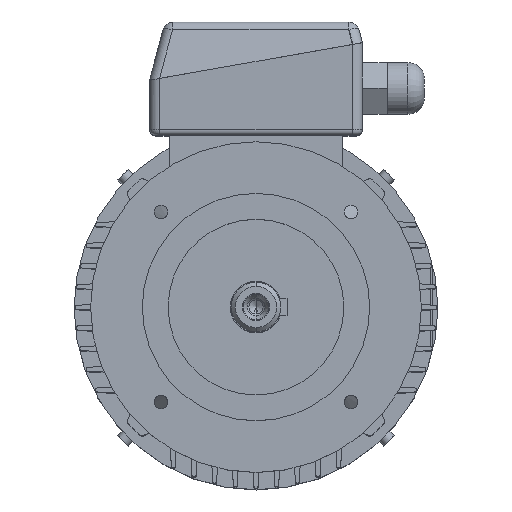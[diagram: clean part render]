
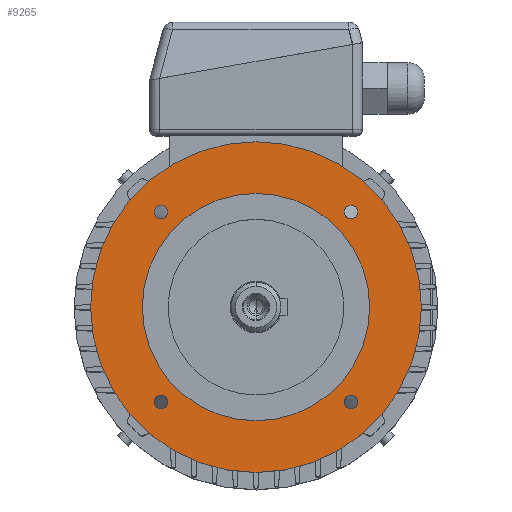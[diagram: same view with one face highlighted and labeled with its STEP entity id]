
A CAD part, top view. The second image highlights one B-rep face of the part: STEP entity #9265.
In plain terms, the highlighted planar face has unit normal (0, 0, 1).
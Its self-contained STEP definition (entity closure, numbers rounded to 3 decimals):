
#608 = VERTEX_POINT ( 'NONE', #9839 ) ;
#863 = VERTEX_POINT ( 'NONE', #9907 ) ;
#1040 = CARTESIAN_POINT ( 'NONE',  ( 49.212, -45.962, 40. ) ) ;
#1097 = EDGE_CURVE ( 'NONE', #863, #608, #10055, .T. ) ;
#1228 = CIRCLE ( 'NONE', #1229, 3.25 ) ;
#1229 = AXIS2_PLACEMENT_3D ( 'NONE', #1230, #1231, #1236 ) ;
#1230 = CARTESIAN_POINT ( 'NONE',  ( 45.962, -45.962, 40. ) ) ;
#1231 = DIRECTION ( 'NONE',  ( 0., 0., 1. ) ) ;
#1236 = DIRECTION ( 'NONE',  ( 1., 0., 0. ) ) ;
#1237 = CIRCLE ( 'NONE', #1238, 3.25 ) ;
#1238 = AXIS2_PLACEMENT_3D ( 'NONE', #1239, #1240, #1241 ) ;
#1239 = CARTESIAN_POINT ( 'NONE',  ( -45.962, 45.962, 40. ) ) ;
#1240 = DIRECTION ( 'NONE',  ( 0., 0., 1. ) ) ;
#1241 = DIRECTION ( 'NONE',  ( 1., 0., 0. ) ) ;
#1367 = CARTESIAN_POINT ( 'NONE',  ( 49.212, 45.962, 40. ) ) ;
#2128 = CARTESIAN_POINT ( 'NONE',  ( 42.712, -45.962, 40. ) ) ;
#3162 = EDGE_CURVE ( 'NONE', #3908, #9528, #10991, .T. ) ;
#3371 = CIRCLE ( 'NONE', #3372, 3.25 ) ;
#3372 = AXIS2_PLACEMENT_3D ( 'NONE', #3373, #3374, #3375 ) ;
#3373 = CARTESIAN_POINT ( 'NONE',  ( 45.962, 45.962, 40. ) ) ;
#3374 = DIRECTION ( 'NONE',  ( 0., 0., 1. ) ) ;
#3375 = DIRECTION ( 'NONE',  ( 1., 0., 0. ) ) ;
#3473 = CARTESIAN_POINT ( 'NONE',  ( -49.212, 45.962, 40. ) ) ;
#3908 = VERTEX_POINT ( 'NONE', #11278 ) ;
#4082 = CIRCLE ( 'NONE', #4083, 80. ) ;
#4083 = AXIS2_PLACEMENT_3D ( 'NONE', #4084, #4085, #4086 ) ;
#4084 = CARTESIAN_POINT ( 'NONE',  ( 0., 0., 40. ) ) ;
#4085 = DIRECTION ( 'NONE',  ( 0., 0., -1. ) ) ;
#4086 = DIRECTION ( 'NONE',  ( 0., 1., 0. ) ) ;
#4365 = CIRCLE ( 'NONE', #4366, 3.25 ) ;
#4366 = AXIS2_PLACEMENT_3D ( 'NONE', #4367, #4368, #4369 ) ;
#4367 = CARTESIAN_POINT ( 'NONE',  ( 45.962, -45.962, 40. ) ) ;
#4368 = DIRECTION ( 'NONE',  ( 0., 0., 1. ) ) ;
#4369 = DIRECTION ( 'NONE',  ( 1., 0., 0. ) ) ;
#4935 = CARTESIAN_POINT ( 'NONE',  ( -42.712, -45.962, 40. ) ) ;
#5077 = CIRCLE ( 'NONE', #5078, 3.25 ) ;
#5078 = AXIS2_PLACEMENT_3D ( 'NONE', #5079, #5080, #5081 ) ;
#5079 = CARTESIAN_POINT ( 'NONE',  ( -45.962, -45.962, 40. ) ) ;
#5080 = DIRECTION ( 'NONE',  ( 0., 0., 1. ) ) ;
#5081 = DIRECTION ( 'NONE',  ( 1., 0., 0. ) ) ;
#5263 = CIRCLE ( 'NONE', #5264, 3.25 ) ;
#5264 = AXIS2_PLACEMENT_3D ( 'NONE', #5265, #5266, #5267 ) ;
#5265 = CARTESIAN_POINT ( 'NONE',  ( -45.962, -45.962, 40. ) ) ;
#5266 = DIRECTION ( 'NONE',  ( 0., 0., 1. ) ) ;
#5267 = DIRECTION ( 'NONE',  ( 1., 0., 0. ) ) ;
#5495 = CARTESIAN_POINT ( 'NONE',  ( -49.212, -45.962, 40. ) ) ;
#5749 = CARTESIAN_POINT ( 'NONE',  ( -42.712, 45.962, 40. ) ) ;
#5986 = CIRCLE ( 'NONE', #5987, 3.25 ) ;
#5987 = AXIS2_PLACEMENT_3D ( 'NONE', #5988, #5989, #5990 ) ;
#5988 = CARTESIAN_POINT ( 'NONE',  ( -45.962, 45.962, 40. ) ) ;
#5989 = DIRECTION ( 'NONE',  ( 0., 0., 1. ) ) ;
#5990 = DIRECTION ( 'NONE',  ( 1., 0., 0. ) ) ;
#6373 = CARTESIAN_POINT ( 'NONE',  ( 0., 55., 40. ) ) ;
#6454 = CIRCLE ( 'NONE', #6455, 55. ) ;
#6455 = AXIS2_PLACEMENT_3D ( 'NONE', #6456, #6457, #6458 ) ;
#6456 = CARTESIAN_POINT ( 'NONE',  ( 0., 0., 40. ) ) ;
#6457 = DIRECTION ( 'NONE',  ( 0., 0., -1. ) ) ;
#6458 = DIRECTION ( 'NONE',  ( 0., 1., 0. ) ) ;
#6650 = FACE_BOUND ( 'NONE', #9207, .T. ) ;
#6651 = FACE_BOUND ( 'NONE', #8795, .T. ) ;
#6652 = FACE_BOUND ( 'NONE', #8401, .T. ) ;
#6653 = FACE_BOUND ( 'NONE', #8000, .T. ) ;
#6654 = FACE_BOUND ( 'NONE', #7618, .T. ) ;
#6655 = FACE_OUTER_BOUND ( 'NONE', #8425, .T. ) ;
#6656 = PLANE ( 'NONE',  #6657 ) ;
#6657 = AXIS2_PLACEMENT_3D ( 'NONE', #6658, #6659, #6660 ) ;
#6658 = CARTESIAN_POINT ( 'NONE',  ( 0., 80., 40. ) ) ;
#6659 = DIRECTION ( 'NONE',  ( 0., 0., 1. ) ) ;
#6660 = DIRECTION ( 'NONE',  ( 0., -1., 0. ) ) ;
#6882 = CIRCLE ( 'NONE', #6887, 55. ) ;
#6887 = AXIS2_PLACEMENT_3D ( 'NONE', #6888, #6889, #6890 ) ;
#6888 = CARTESIAN_POINT ( 'NONE',  ( 0., 0., 40. ) ) ;
#6889 = DIRECTION ( 'NONE',  ( 0., 0., -1. ) ) ;
#6890 = DIRECTION ( 'NONE',  ( 0., 1., 0. ) ) ;
#6956 = CARTESIAN_POINT ( 'NONE',  ( 0., -55., 40. ) ) ;
#7236 = VERTEX_POINT ( 'NONE', #1040 ) ;
#7296 = EDGE_CURVE ( 'NONE', #7490, #7236, #1228, .T. ) ;
#7487 = ORIENTED_EDGE ( 'NONE', *, *, #9178, .T. ) ;
#7490 = VERTEX_POINT ( 'NONE', #2128 ) ;
#7618 = EDGE_LOOP ( 'NONE', ( #7487, #8475 ) ) ;
#7671 = ORIENTED_EDGE ( 'NONE', *, *, #3162, .F. ) ;
#7786 = EDGE_CURVE ( 'NONE', #9528, #3908, #3371, .T. ) ;
#7814 = VERTEX_POINT ( 'NONE', #3473 ) ;
#7880 = ORIENTED_EDGE ( 'NONE', *, *, #7786, .F. ) ;
#8000 = EDGE_LOOP ( 'NONE', ( #7880, #7671 ) ) ;
#8060 = EDGE_CURVE ( 'NONE', #608, #863, #4082, .T. ) ;
#8070 = ORIENTED_EDGE ( 'NONE', *, *, #7296, .F. ) ;
#8140 = ORIENTED_EDGE ( 'NONE', *, *, #8060, .F. ) ;
#8180 = EDGE_CURVE ( 'NONE', #7236, #7490, #4365, .T. ) ;
#8265 = ORIENTED_EDGE ( 'NONE', *, *, #1097, .F. ) ;
#8276 = ORIENTED_EDGE ( 'NONE', *, *, #8180, .F. ) ;
#8401 = EDGE_LOOP ( 'NONE', ( #8276, #8070 ) ) ;
#8425 = EDGE_LOOP ( 'NONE', ( #8265, #8140 ) ) ;
#8449 = ORIENTED_EDGE ( 'NONE', *, *, #8526, .F. ) ;
#8466 = VERTEX_POINT ( 'NONE', #4935 ) ;
#8475 = ORIENTED_EDGE ( 'NONE', *, *, #9367, .T. ) ;
#8526 = EDGE_CURVE ( 'NONE', #8733, #8466, #5077, .T. ) ;
#8623 = EDGE_CURVE ( 'NONE', #8466, #8733, #5263, .T. ) ;
#8679 = ORIENTED_EDGE ( 'NONE', *, *, #8623, .F. ) ;
#8733 = VERTEX_POINT ( 'NONE', #5495 ) ;
#8795 = EDGE_LOOP ( 'NONE', ( #8679, #8449 ) ) ;
#8846 = ORIENTED_EDGE ( 'NONE', *, *, #9496, .F. ) ;
#8847 = VERTEX_POINT ( 'NONE', #5749 ) ;
#8967 = EDGE_CURVE ( 'NONE', #8847, #7814, #5986, .T. ) ;
#9054 = ORIENTED_EDGE ( 'NONE', *, *, #8967, .F. ) ;
#9122 = VERTEX_POINT ( 'NONE', #6373 ) ;
#9178 = EDGE_CURVE ( 'NONE', #9122, #9394, #6454, .T. ) ;
#9207 = EDGE_LOOP ( 'NONE', ( #9054, #8846 ) ) ;
#9265 = ADVANCED_FACE ( 'NONE', ( #6650, #6651, #6652, #6653, #6654, #6655 ), #6656, .T. ) ;
#9367 = EDGE_CURVE ( 'NONE', #9394, #9122, #6882, .T. ) ;
#9394 = VERTEX_POINT ( 'NONE', #6956 ) ;
#9496 = EDGE_CURVE ( 'NONE', #7814, #8847, #1237, .T. ) ;
#9528 = VERTEX_POINT ( 'NONE', #1367 ) ;
#9839 = CARTESIAN_POINT ( 'NONE',  ( 0., -80., 40. ) ) ;
#9907 = CARTESIAN_POINT ( 'NONE',  ( 0., 80., 40. ) ) ;
#10055 = CIRCLE ( 'NONE', #10056, 80. ) ;
#10056 = AXIS2_PLACEMENT_3D ( 'NONE', #10057, #10058, #10059 ) ;
#10057 = CARTESIAN_POINT ( 'NONE',  ( 0., 0., 40. ) ) ;
#10058 = DIRECTION ( 'NONE',  ( 0., 0., -1. ) ) ;
#10059 = DIRECTION ( 'NONE',  ( 0., 1., 0. ) ) ;
#10991 = CIRCLE ( 'NONE', #10992, 3.25 ) ;
#10992 = AXIS2_PLACEMENT_3D ( 'NONE', #10993, #10994, #10995 ) ;
#10993 = CARTESIAN_POINT ( 'NONE',  ( 45.962, 45.962, 40. ) ) ;
#10994 = DIRECTION ( 'NONE',  ( 0., 0., 1. ) ) ;
#10995 = DIRECTION ( 'NONE',  ( 1., 0., 0. ) ) ;
#11278 = CARTESIAN_POINT ( 'NONE',  ( 42.712, 45.962, 40. ) ) ;
